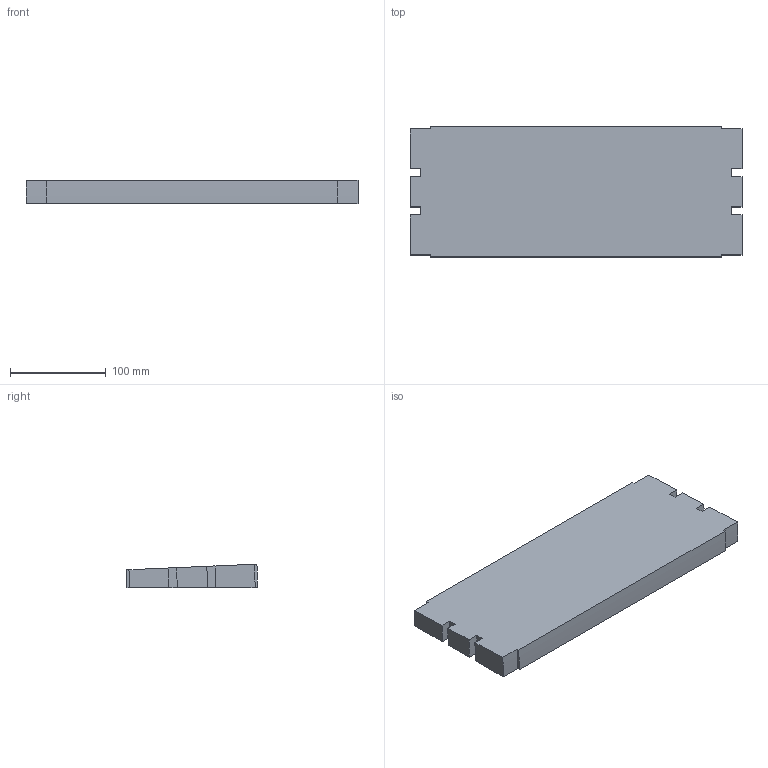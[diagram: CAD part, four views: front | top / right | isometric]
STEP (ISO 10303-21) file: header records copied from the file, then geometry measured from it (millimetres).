
FILE_DESCRIPTION (( 'STEP AP214' ), '1' );
FILE_NAME ('02.150V02.350.N FS-350-MTC-150 Bocht verticaal 2,5°.STEP', '2013-03-21T10:47:26', ( 'Gebruiker' ), ( '' ), 'SwSTEP 2.0', 'SolidWorks 2012', '' );
FILE_SCHEMA (( 'AUTOMOTIVE_DESIGN' ));
Length unit declared in the file: millimetre
Products named in the file (1): 02.150V02.350.N FS-350-MTC-150 Bocht verticaal 2,5°
Bounding box: 346 x 136.41 x 24.78 mm (x, y, z)
Volume: 1013861.8 mm3; surface area: 115895.1 mm2
Topology: 1 solids, 1 shells, 30 faces, 84 edges, 56 vertices
Faces by surface type: plane 16, cylinder 14
Entity records: 1010 total; most frequent: DIRECTION 174, CARTESIAN_POINT 171, ORIENTED_EDGE 168, EDGE_CURVE 84, AXIS2_PLACEMENT_3D 59, VECTOR 56, VERTEX_POINT 56, LINE 56
